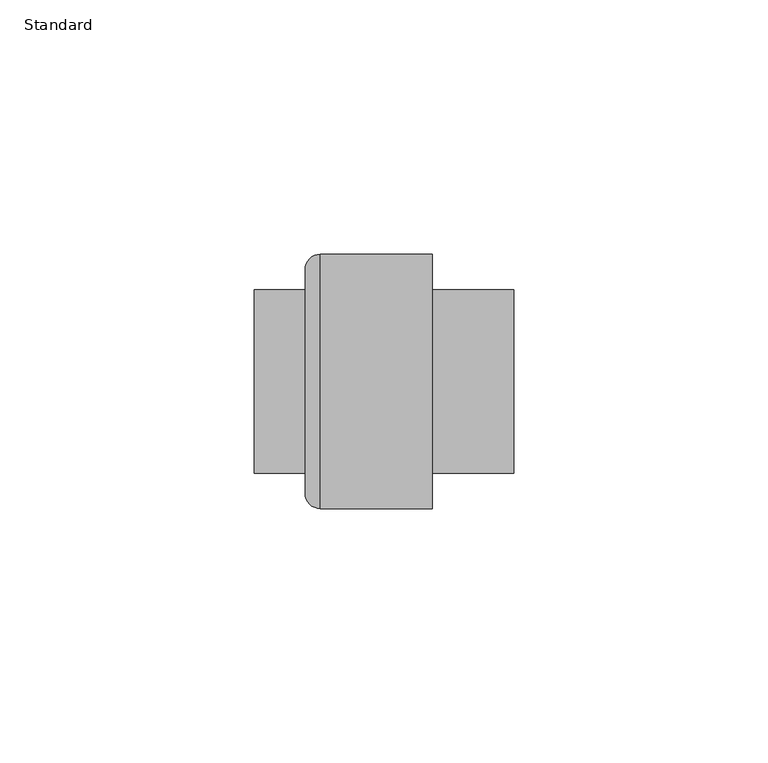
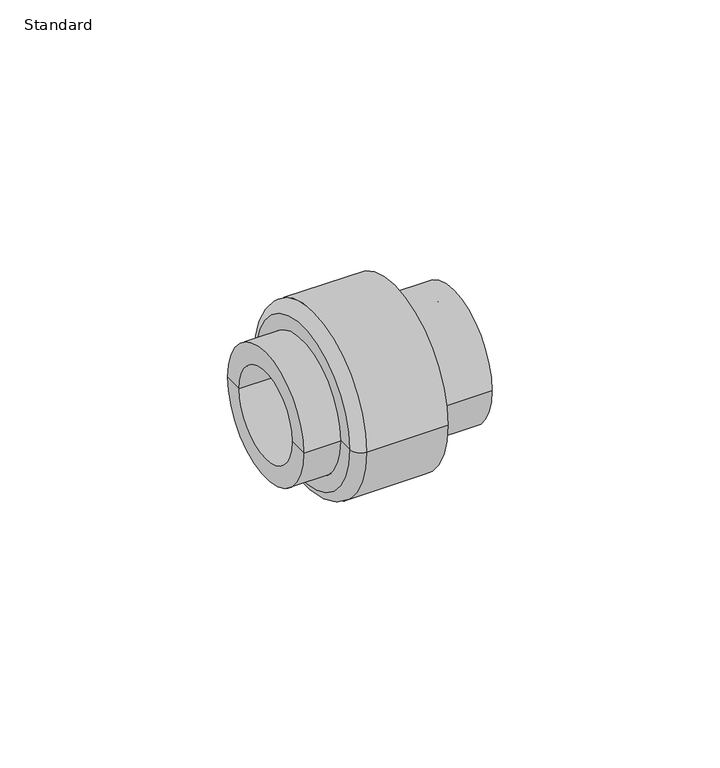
"""IFC4 building model written with IfcOpenShell, lengths in millimetres: pipe fitting geometry, Durapipe_PipeFitting_PVC_SocketUnions : Standard."""

from ifc_helpers import new_model, si_unit, point, frame, origin, place, context, project, spatial, polyline, circle_curve, ellipse_curve, trimmed, source, transform, mapped, element, save
from ifc_brep_helpers import plane_surface, cylinder_surface, revolved_surface, advanced_brep


def standard_74011e48(model_context):
    return source(origin(), model_context, "Body", "AdvancedBrep", [
        advanced_brep(
        [(-16.5, -18.0, 0.0), (-16.5, 18.0, 0.0), (-16.5, 22.0, 0.0), (-16.5, -22.0, 0.0), (8.5, -25.0, 0.0), (8.5, 25.0, 0.0), (8.5, 18.0, 0.0), (8.5, -18.0, 0.0), (-13.5, -25.0, 0.0), (-13.5, 25.0, 0.0)],
        [
            (0, 1, circle_curve(frame((-16.5, 0.0, 0.0), z_axis=(1.0, 0.0, 0.0), x_axis=(0.0, 1.0, 0.0)), 18.0)),
            (1, 2),
            (2, 3, circle_curve(frame((-16.5, 0.0, 0.0), z_axis=(-1.0, 0.0, 0.0), x_axis=(0.0, 1.0, 0.0)), 22.0)),
            (3, 0),
            (1, 0, circle_curve(frame((-16.5, 0.0, 0.0), z_axis=(1.0, 0.0, 0.0), x_axis=(0.0, 1.0, 0.0)), 18.0)),
            (3, 2, circle_curve(frame((-16.5, 0.0, 0.0), z_axis=(-1.0, 0.0, 0.0), x_axis=(0.0, 1.0, 0.0)), 22.0)),
            (4, 5, circle_curve(frame((8.5, 0.0, 0.0), z_axis=(1.0, 0.0, 0.0), x_axis=(0.0, 1.0, 0.0)), 25.0)),
            (5, 6),
            (6, 7, circle_curve(frame((8.5, 0.0, 0.0), z_axis=(-1.0, 0.0, 0.0), x_axis=(0.0, 1.0, 0.0)), 18.0)),
            (7, 4),
            (5, 4, circle_curve(frame((8.5, 0.0, 0.0), z_axis=(1.0, 0.0, 0.0), x_axis=(0.0, 1.0, 0.0)), 25.0)),
            (7, 6, circle_curve(frame((8.5, 0.0, 0.0), z_axis=(-1.0, 0.0, 0.0), x_axis=(0.0, 1.0, 0.0)), 18.0)),
            (8, 9, circle_curve(frame((-13.5, 0.0, 0.0), z_axis=(1.0, 0.0, 0.0), x_axis=(0.0, 1.0, 0.0)), 25.0)),
            (9, 5),
            (4, 8),
            (9, 8, circle_curve(frame((-13.5, 0.0, 0.0), z_axis=(1.0, 0.0, 0.0), x_axis=(0.0, 1.0, 0.0)), 25.0)),
            (2, 9, circle_curve(frame((-13.5, 22.0, 0.0), z_axis=(0.0, 0.0, -1.0), x_axis=(1.0, 0.0, 0.0)), 3.0)),
            (8, 3, circle_curve(frame((-13.5, -22.0, 0.0), z_axis=(0.0, 0.0, -1.0), x_axis=(1.0, 0.0, 0.0)), 3.0)),
            (6, 1),
            (0, 7),
        ],
        [
            plane_surface(frame((-16.5, 0.0, 0.0), z_axis=(-1.0, 0.0, 0.0), x_axis=(0.0, 1.0, 0.0))),
            plane_surface(frame((8.5, 0.0, 0.0), z_axis=(1.0, 0.0, 0.0), x_axis=(0.0, 1.0, 0.0))),
            cylinder_surface(frame((2000.0, 0.0, 0.0), z_axis=(-1.0, 0.0, 0.0), x_axis=(0.0, 1.0, 0.0)), 25.0),
            revolved_surface(trimmed(ellipse_curve(frame((-13.5, 22.0, 0.0), z_axis=(0.0, 0.0, 1.0), x_axis=(1.0, 0.0, 0.0)), 3.0, 3.0), [point((-13.5, 25.0, 0.0))], [point((-16.5, 22.0, 0.0))], True, "CARTESIAN"), (2000.0, 0.0, 0.0), (-1.0, 0.0, 0.0)),
            revolved_surface(polyline([(-16.5, 18.0, 0.0), (8.5, 18.0, 0.0)]), (2000.0, 0.0, 0.0), (-1.0, 0.0, 0.0)),
        ],
        [
            (0, [[1, 2, 3, 4]]),
            (0, [[5, -4, 6, -2]]),
            (1, [[7, 8, 9, 10]]),
            (1, [[11, -10, 12, -8]]),
            (2, [[13, 14, -7, 15]]),
            (2, [[16, -15, -11, -14]]),
            (3, [[-3, 17, -13, 18]]),
            (3, [[-6, -18, -16, -17]]),
            (4, [[-9, 19, -1, 20]]),
            (4, [[-12, -20, -5, -19]]),
        ],
    ),
        advanced_brep(
        [(-7.5, -12.5, 0.0), (-7.5, 12.5, 0.0), (-26.5, 12.5, 0.0), (-26.5, -12.5, 0.0), (-7.5, 0.0, 0.0), (5.5, -12.5, 0.0), (5.5, 12.5, 0.0), (5.5, 0.0, 0.0), (-26.5, -18.0, 0.0), (-26.5, 18.0, 0.0), (24.5, 18.0, 0.0), (24.5, -18.0, 0.0), (24.5, -12.5, 0.0), (24.5, 12.5, 0.0)],
        [
            (0, 1, circle_curve(frame((-7.5, 0.0, 0.0), z_axis=(1.0, 0.0, 0.0), x_axis=(0.0, 1.0, 0.0)), 12.5)),
            (1, 2),
            (2, 3, circle_curve(frame((-26.5, 0.0, 0.0), z_axis=(-1.0, 0.0, 0.0), x_axis=(0.0, 1.0, 0.0)), 12.5)),
            (3, 0),
            (1, 0, circle_curve(frame((-7.5, 0.0, 0.0), z_axis=(1.0, 0.0, 0.0), x_axis=(0.0, 1.0, 0.0)), 12.5)),
            (3, 2, circle_curve(frame((-26.5, 0.0, 0.0), z_axis=(-1.0, 0.0, 0.0), x_axis=(0.0, 1.0, 0.0)), 12.5)),
            (4, 1),
            (0, 4),
            (5, 6, circle_curve(frame((5.5, 0.0, 0.0), z_axis=(1.0, 0.0, 0.0), x_axis=(0.0, 1.0, 0.0)), 12.5)),
            (6, 7),
            (7, 5),
            (6, 5, circle_curve(frame((5.5, 0.0, 0.0), z_axis=(1.0, 0.0, 0.0), x_axis=(0.0, 1.0, 0.0)), 12.5)),
            (8, 9, circle_curve(frame((-26.5, 0.0, 0.0), z_axis=(1.0, 0.0, 0.0), x_axis=(0.0, 1.0, 0.0)), 18.0)),
            (9, 10),
            (10, 11, circle_curve(frame((24.5, 0.0, 0.0), z_axis=(-1.0, 0.0, 0.0), x_axis=(0.0, 1.0, 0.0)), 18.0)),
            (11, 8),
            (9, 8, circle_curve(frame((-26.5, 0.0, 0.0), z_axis=(1.0, 0.0, 0.0), x_axis=(0.0, 1.0, 0.0)), 18.0)),
            (11, 10, circle_curve(frame((24.5, 0.0, 0.0), z_axis=(-1.0, 0.0, 0.0), x_axis=(0.0, 1.0, 0.0)), 18.0)),
            (2, 9),
            (8, 3),
            (12, 13, circle_curve(frame((24.5, 0.0, 0.0), z_axis=(1.0, 0.0, 0.0), x_axis=(0.0, 1.0, 0.0)), 12.5)),
            (13, 6),
            (5, 12),
            (13, 12, circle_curve(frame((24.5, 0.0, 0.0), z_axis=(1.0, 0.0, 0.0), x_axis=(0.0, 1.0, 0.0)), 12.5)),
            (10, 13),
            (12, 11),
        ],
        [
            revolved_surface(polyline([(-26.5, 12.5, 0.0), (-7.5, 12.5, 0.0)]), (2000.0, 0.0, 0.0), (-1.0, 0.0, 0.0)),
            plane_surface(frame((-7.5, 0.0, 0.0), z_axis=(-1.0, 0.0, 0.0), x_axis=(0.0, 1.0, 0.0))),
            plane_surface(frame((5.5, 0.0, 0.0), z_axis=(1.0, 0.0, 0.0), x_axis=(0.0, 1.0, 0.0))),
            cylinder_surface(frame((2000.0, 0.0, 0.0), z_axis=(-1.0, 0.0, 0.0), x_axis=(0.0, 1.0, 0.0)), 18.0),
            plane_surface(frame((-26.5, 0.0, 0.0), z_axis=(-1.0, 0.0, 0.0), x_axis=(0.0, 1.0, 0.0))),
            revolved_surface(polyline([(5.5, 12.5, 0.0), (24.5, 12.5, 0.0)]), (2000.0, 0.0, 0.0), (-1.0, 0.0, 0.0)),
            plane_surface(frame((24.5, 0.0, 0.0), z_axis=(1.0, 0.0, 0.0), x_axis=(0.0, 1.0, 0.0))),
        ],
        [
            (0, [[1, 2, 3, 4]]),
            (0, [[5, -4, 6, -2]]),
            (1, [[7, -1, 8]]),
            (1, [[-8, -5, -7]]),
            (2, [[9, 10, 11]]),
            (2, [[12, -11, -10]]),
            (3, [[13, 14, 15, 16]]),
            (3, [[17, -16, 18, -14]]),
            (4, [[-3, 19, -13, 20]]),
            (4, [[-6, -20, -17, -19]]),
            (5, [[21, 22, -9, 23]]),
            (5, [[24, -23, -12, -22]]),
            (6, [[-15, 25, -21, 26]]),
            (6, [[-18, -26, -24, -25]]),
        ],
    ),
    ])


if __name__ == "__main__":
    model = new_model("IFC4")
    model_context = context("Model", 3, world=origin())
    ifc_project = project(units=[si_unit("LENGTHUNIT", "METRE", prefix="MILLI")], contexts=[model_context])
    site = spatial("IfcSite", under=ifc_project)
    building = spatial("IfcBuilding", under=site)
    placement = place(None, origin())
    standard_shape = standard_74011e48(model_context)
    element("IfcPipeFitting", 1, ObjectType="Durapipe_PipeFitting_PVC_SocketUnions : Standard", at=placement, inside=building, context=model_context, shape_type="MappedRepresentation", body=[
        mapped(standard_shape, transform((0.0, 0.0, 0.0), x_axis=(1.0, 0.0, 0.0), y_axis=(0.0, 1.0, 0.0), z_axis=(0.0, 0.0, 1.0))),
    ])
    save(model, "model.ifc")
